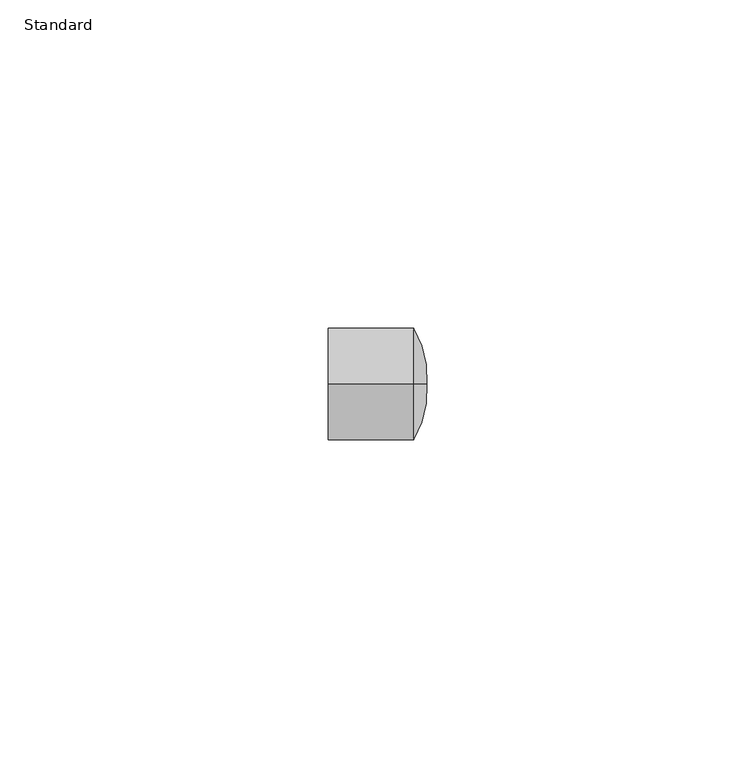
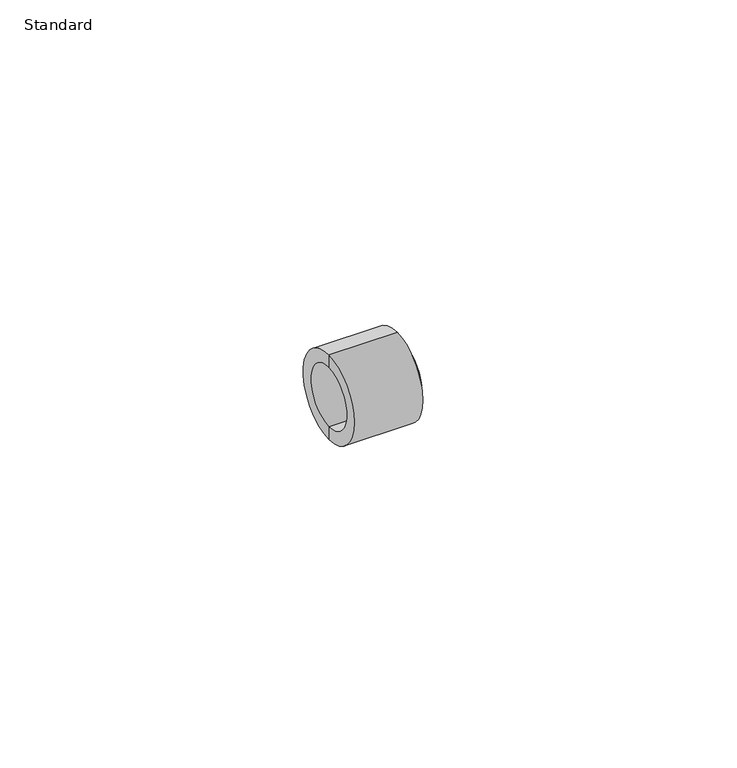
"""IFC4 building model written with IfcOpenShell, lengths in millimetres: pipe fitting geometry, Durapipe_PipeFitting_PVC_Cap : Standard."""

from ifc_helpers import new_model, si_unit, point, frame, origin, place, context, project, spatial, polyline, circle_curve, ellipse_curve, trimmed, source, transform, mapped, element, save
from ifc_brep_helpers import plane_surface, cylinder_surface, revolved_surface, advanced_brep


def standard_5e441faa(model_context):
    return source(origin(), model_context, "Body", "AdvancedBrep", [
        advanced_brep(
        [(0.0, 0.0, 0.0), (0.0, 0.0, 6.0), (0.0, 0.0, -6.0), (1.0, 0.0, -8.5), (1.0, 0.0, 8.5), (3.0, 0.0, 0.0), (-12.0, 0.0, -8.5), (-12.0, 0.0, 8.5), (-12.0, 0.0, -6.0), (-12.0, 0.0, 6.0)],
        [
            (0, 1),
            (1, 2, circle_curve(frame((0.0, 0.0, 0.0), z_axis=(-1.0, 0.0, 0.0), x_axis=(0.0, 0.0, 1.0)), 6.0)),
            (2, 0),
            (2, 1, circle_curve(frame((0.0, 0.0, 0.0), z_axis=(-1.0, 0.0, 0.0), x_axis=(0.0, 0.0, 1.0)), 6.0)),
            (3, 4, circle_curve(frame((1.0, 0.0, 0.0), z_axis=(1.0, 0.0, 0.0), x_axis=(0.0, 0.0, 1.0)), 8.5)),
            (4, 5, circle_curve(frame((-11.2836859, 0.0, 1.1244268), z_axis=(0.0, 1.0, 0.0), x_axis=(1.0, 0.0, 0.0)), 14.3278756)),
            (5, 3, circle_curve(frame((-11.2836859, 0.0, -1.1244268), z_axis=(0.0, 1.0, 0.0), x_axis=(1.0, 0.0, 0.0)), 14.3278756)),
            (4, 3, circle_curve(frame((1.0, 0.0, 0.0), z_axis=(1.0, 0.0, 0.0), x_axis=(0.0, 0.0, 1.0)), 8.5)),
            (6, 7, circle_curve(frame((-12.0, 0.0, 0.0), z_axis=(1.0, 0.0, 0.0), x_axis=(0.0, 0.0, 1.0)), 8.5)),
            (7, 4),
            (3, 6),
            (7, 6, circle_curve(frame((-12.0, 0.0, 0.0), z_axis=(1.0, 0.0, 0.0), x_axis=(0.0, 0.0, 1.0)), 8.5)),
            (8, 9, circle_curve(frame((-12.0, 0.0, 0.0), z_axis=(1.0, 0.0, 0.0), x_axis=(0.0, 0.0, 1.0)), 6.0)),
            (9, 7),
            (6, 8),
            (9, 8, circle_curve(frame((-12.0, 0.0, 0.0), z_axis=(1.0, 0.0, 0.0), x_axis=(0.0, 0.0, 1.0)), 6.0)),
            (1, 9),
            (8, 2),
        ],
        [
            plane_surface(frame((0.0, 0.0, 0.0), z_axis=(-1.0, 0.0, 0.0), x_axis=(0.0, 0.0, 1.0))),
            revolved_surface(trimmed(ellipse_curve(frame((-11.2836859, 0.0, 1.1244268), z_axis=(0.0, -1.0, 0.0), x_axis=(1.0, 0.0, 0.0)), 14.3278756, 14.3278756), [point((3.0, 0.0, 0.0))], [point((1.0, 0.0, 8.5))], True, "CARTESIAN"), (-1511.1299635, 0.0, 0.0), (-1.0, 0.0, 0.0)),
            cylinder_surface(frame((-1511.1299635, 0.0, 0.0), z_axis=(-1.0, 0.0, 0.0), x_axis=(0.0, 0.0, 1.0)), 8.5),
            plane_surface(frame((-12.0, 0.0, 0.0), z_axis=(-1.0, 0.0, 0.0), x_axis=(0.0, 0.0, 1.0))),
            revolved_surface(polyline([(-12.0, 0.0, 6.0), (0.0, 0.0, 6.0)]), (-1511.1299635, 0.0, 0.0), (-1.0, 0.0, 0.0)),
        ],
        [
            (0, [[1, 2, 3]]),
            (0, [[-3, 4, -1]]),
            (1, [[5, 6, 7]]),
            (1, [[8, -7, -6]]),
            (2, [[9, 10, -5, 11]]),
            (2, [[12, -11, -8, -10]]),
            (3, [[13, 14, -9, 15]]),
            (3, [[16, -15, -12, -14]]),
            (4, [[-2, 17, -13, 18]]),
            (4, [[-4, -18, -16, -17]]),
        ],
    ),
    ])


if __name__ == "__main__":
    model = new_model("IFC4")
    model_context = context("Model", 3, world=origin())
    ifc_project = project(units=[si_unit("LENGTHUNIT", "METRE", prefix="MILLI")], contexts=[model_context])
    site = spatial("IfcSite", under=ifc_project)
    building = spatial("IfcBuilding", under=site)
    placement = place(None, origin())
    standard_shape = standard_5e441faa(model_context)
    element("IfcPipeFitting", 1, ObjectType="Durapipe_PipeFitting_PVC_Cap : Standard", at=placement, inside=building, context=model_context, shape_type="MappedRepresentation", body=[
        mapped(standard_shape, transform((0.0, 0.0, 0.0), x_axis=(1.0, 0.0, 0.0), y_axis=(0.0, 1.0, 0.0), z_axis=(0.0, 0.0, 1.0))),
    ])
    save(model, "model.ifc")
